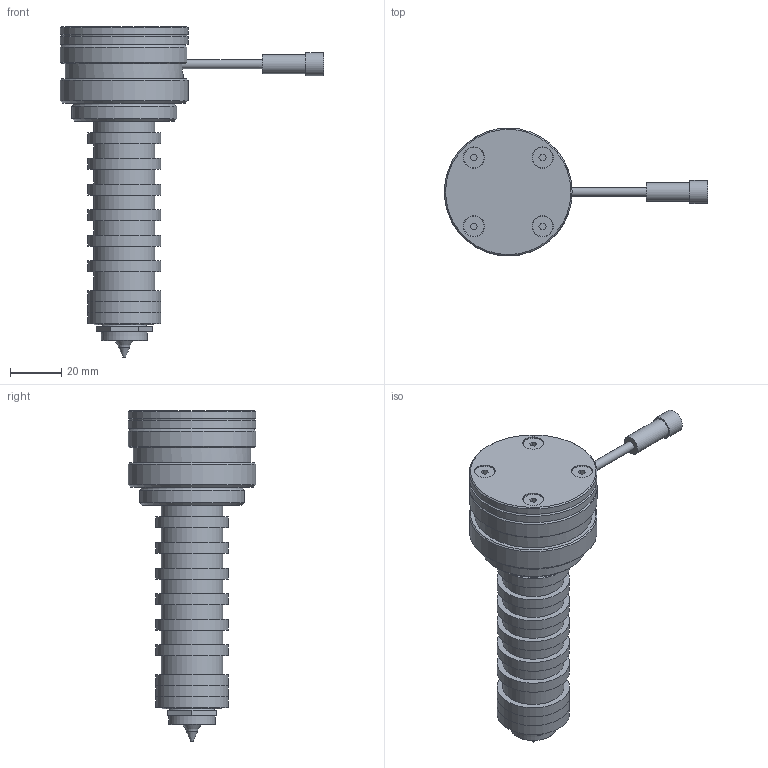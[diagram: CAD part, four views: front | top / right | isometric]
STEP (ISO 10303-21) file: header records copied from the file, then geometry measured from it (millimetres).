
FILE_DESCRIPTION(('STEP AP214'),'1');
FILE_NAME('FLM7-A.stp','2018-06-12T08:52:44',(' '),(' '),'Spatial InterOp 3D',' ',' ');
FILE_SCHEMA(('AUTOMOTIVE_DESIGN { 1 0 10303 214 1 1 1 1 }'));
Length unit declared in the file: millimetre
Products named in the file (1): 1
Bounding box: 103 x 50 x 129.42 mm (x, y, z)
Volume: 102565.9 mm3; surface area: 31178.1 mm2
Topology: 6 solids, 6 shells, 170 faces, 351 edges, 222 vertices
Faces by surface type: plane 83, cylinder 50, cone 26, torus 7, revolution 4
Full cylindrical faces by diameter (mm): 3.3 x4, 3.5 x1, 4 x4, 4.5 x4, 7.5 x1, 8.3 x4, 9 x1, 24 x8, 28.4 x13, 34 x1, 41 x1, 46 x1, 50 x3
Entity records: 5519 total; most frequent: CARTESIAN_POINT 849, DIRECTION 715, ORIENTED_EDGE 506, AXIS2_PLACEMENT_3D 301, EDGE_LOOP 287, EDGE_CURVE 253, FACE_OUTER_BOUND 226, VERTEX_POINT 206
